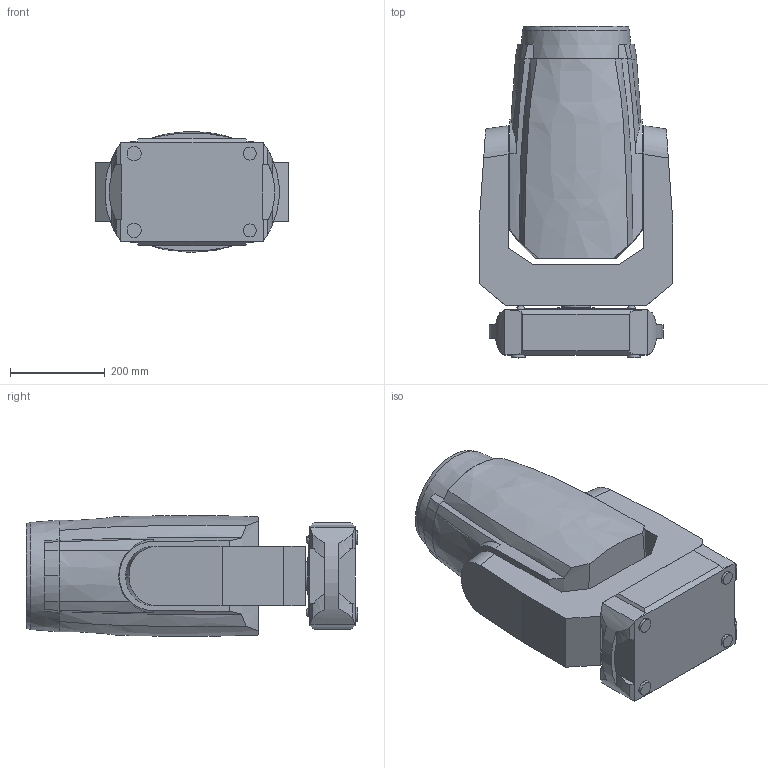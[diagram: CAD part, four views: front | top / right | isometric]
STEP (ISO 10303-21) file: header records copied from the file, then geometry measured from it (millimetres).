
FILE_DESCRIPTION(/* description */ ('Unknown'),/* implementation_level */ '2;1');
FILE_NAME(/* name */ '3D_iPainte LTM',/* time_stamp */ '2025-06-27T09:30:56+02:00',/* author */ ('Unknown'),/* organization */ ('Unknown'),/* preprocessor_version */ 'ST-DEVELOPER v20',/* originating_system */ 'Solid Edge',/* authorisation */ 'Unknown');
FILE_SCHEMA (('AUTOMOTIVE_DESIGN {1 0 10303 214 3 1 1}'));
Length unit declared in the file: millimetre
Products named in the file (1): Robin iPainte LTM_3D symbol data
Bounding box: 408 x 699.36 x 254.18 mm (x, y, z)
Volume: 42403289.2 mm3; surface area: 1146281.7 mm2
Topology: 1 solids, 1 shells, 145 faces, 409 edges, 271 vertices
Faces by surface type: plane 64, bspline 44, cylinder 25, torus 4, cone 4, sphere 4
Full cylindrical faces by diameter (mm): 17 x1, 27.261 x2, 29.966 x2, 45 x2, 61 x1, 79.2 x1
Entity records: 13328 total; most frequent: CARTESIAN_POINT 8996, ORIENTED_EDGE 778, DIRECTION 506, EDGE_CURVE 389, VERTEX_POINT 263, LINE 170, VECTOR 170, EDGE_LOOP 168
